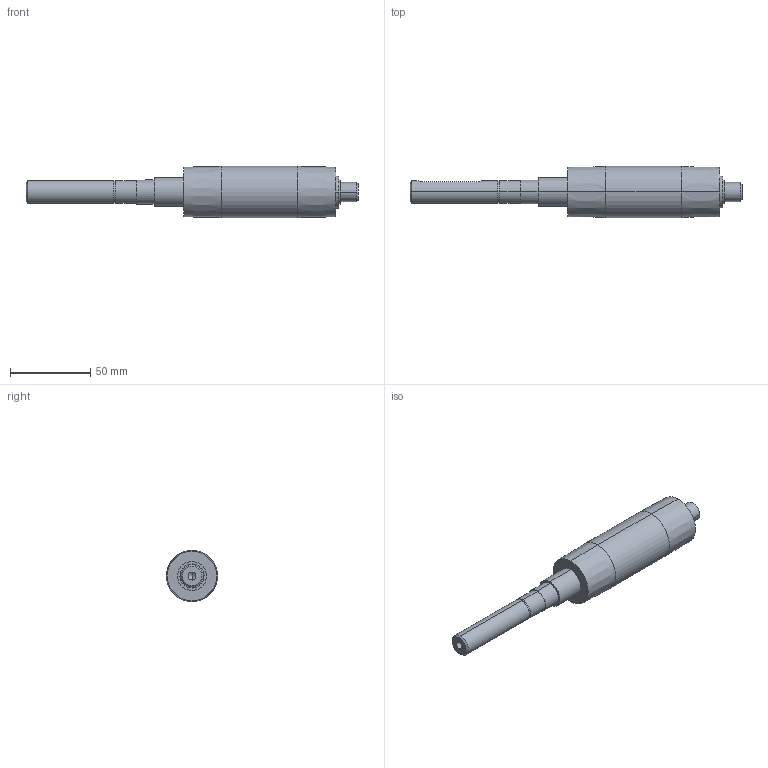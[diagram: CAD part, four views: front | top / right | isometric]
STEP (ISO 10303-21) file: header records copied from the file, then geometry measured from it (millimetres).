
FILE_DESCRIPTION (( 'STEP AP214' ), '1' );
FILE_NAME ('084.030.191.STEP', '2021-02-05T15:50:22', ( '' ), ( '' ), 'SwSTEP 2.0', 'SolidWorks 2018', '' );
FILE_SCHEMA (( 'AUTOMOTIVE_DESIGN' ));
Length unit declared in the file: millimetre
Products named in the file (1): 084.030.191
Bounding box: 207.5 x 32 x 32 mm (x, y, z)
Volume: 93514.3 mm3; surface area: 16696.5 mm2
Topology: 1 solids, 1 shells, 45 faces, 92 edges, 57 vertices
Faces by surface type: cylinder 22, plane 13, cone 10
Entity records: 1296 total; most frequent: CARTESIAN_POINT 255, DIRECTION 230, ORIENTED_EDGE 180, AXIS2_PLACEMENT_3D 96, EDGE_CURVE 90, VERTEX_POINT 57, EDGE_LOOP 55, CIRCLE 50
